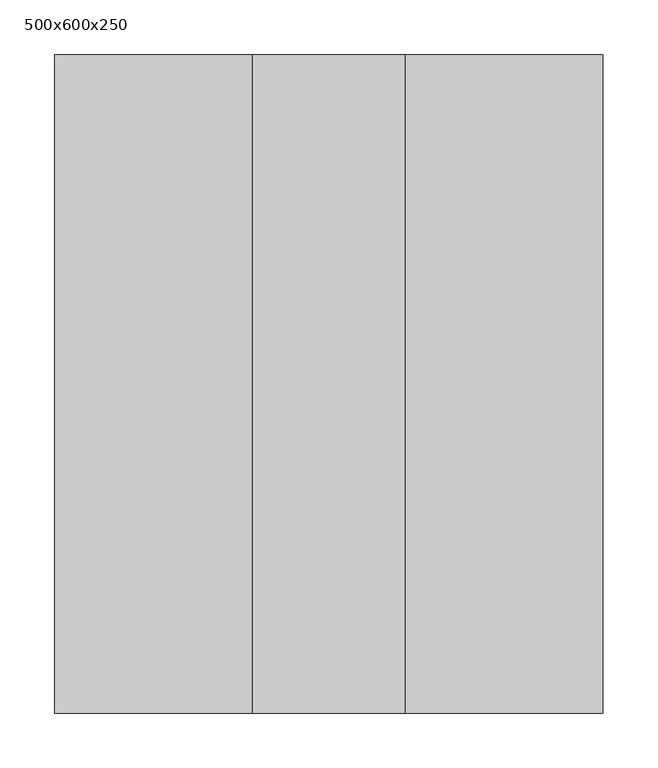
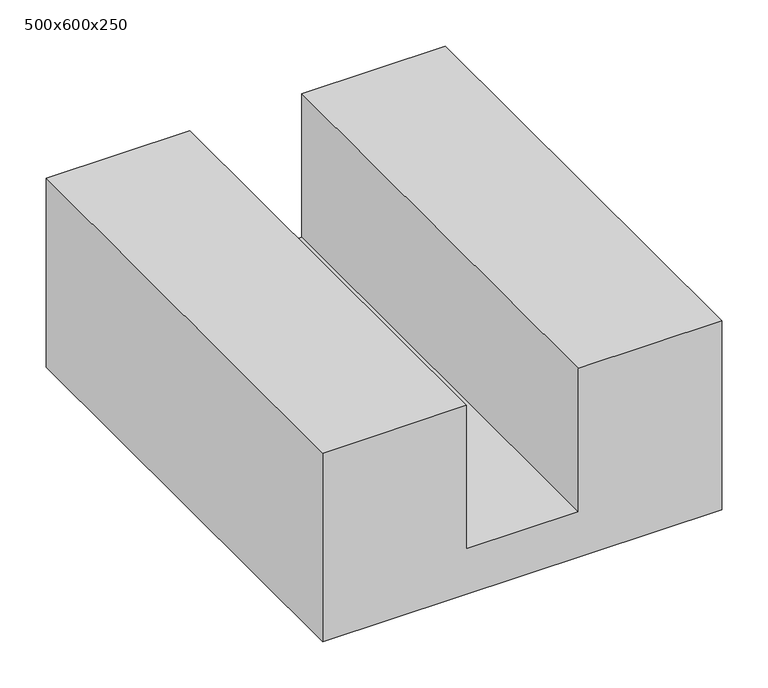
"""IFC4 building model written with IfcOpenShell, lengths in millimetres: plate geometry, GASBETON Evolution Canalette : 500x600x250."""

from ifc_helpers import new_model, si_unit, frame, origin, place, context, project, spatial, polyline, outline, extrude, source, transform, mapped, element, save


def plate_500x600x250_efc8f7d9(model_context):
    return source(origin(), model_context, "Body", "SweptSolid", [
        extrude(outline(polyline([(0.0, -250.0), (0.0, 250.0), (250.0, 250.0), (250.0, 70.0), (60.0, 70.0), (60.0, -70.0), (250.0, -70.0), (250.0, -250.0), (0.0, -250.0)])), frame((0.0, -300.0, 0.0), z_axis=(0.0, 1.0, 0.0), x_axis=(0.0, 0.0, 1.0)), (0.0, 0.0, 1.0), 600.0),
    ])


if __name__ == "__main__":
    model = new_model("IFC4")
    model_context = context("Model", 3, world=origin())
    ifc_project = project(units=[si_unit("LENGTHUNIT", "METRE", prefix="MILLI")], contexts=[model_context])
    site = spatial("IfcSite", under=ifc_project)
    building = spatial("IfcBuilding", under=site)
    placement = place(None, origin())
    plate_500x600x250_shape = plate_500x600x250_efc8f7d9(model_context)
    element("IfcPlate", 1, ObjectType="GASBETON Evolution Canalette : 500x600x250", at=placement, inside=building, context=model_context, shape_type="MappedRepresentation", body=[
        mapped(plate_500x600x250_shape, transform((0.0, 0.0, 0.0), x_axis=(1.0, 0.0, 0.0), y_axis=(0.0, 1.0, 0.0), z_axis=(0.0, 0.0, 1.0))),
    ])
    save(model, "model.ifc")
